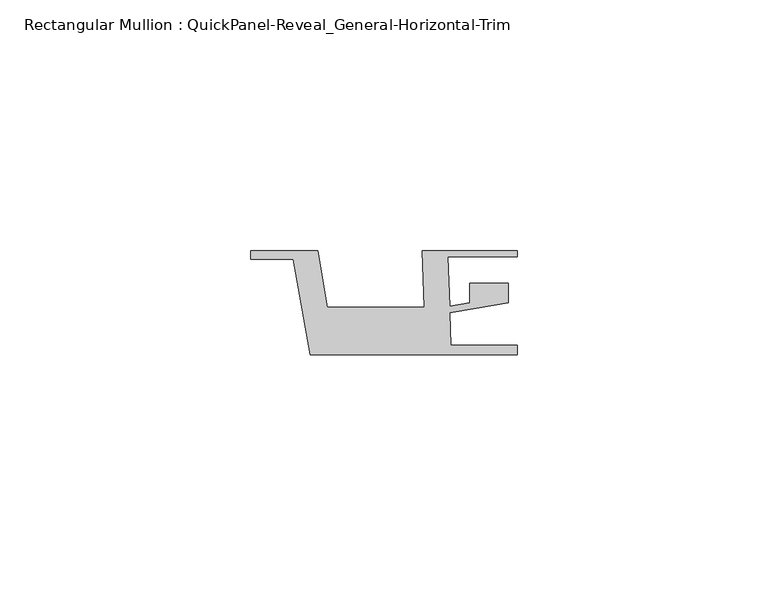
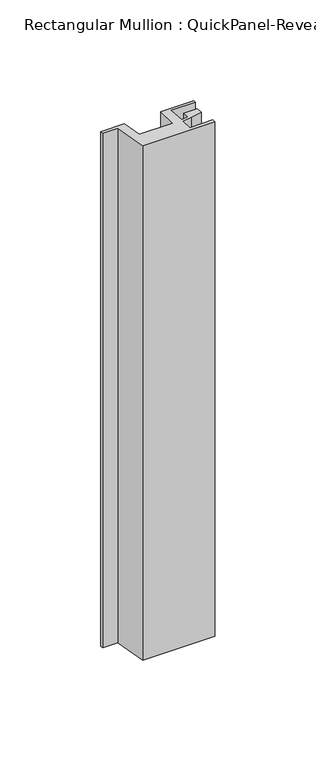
"""IFC4 building model written with IfcOpenShell, lengths in millimetres: member geometry, Rectangular Mullion : QuickPanel-Reveal_General-Horizontal-Trim."""

from ifc_helpers import new_model, si_unit, frame, origin, place, context, project, spatial, polyline, outline, extrude, source, transform, mapped, element, save


def rectangular_mullion_quickpanel_reveal_general_horizontal_b5cb45a2(model_context):
    return source(origin(), model_context, "Body", "SweptSolid", [
        extrude(outline(polyline([(28.3897075, -8.6293878), (-12.9047811, -8.6293878), (-16.27755, 10.4985348), (-24.8029806, 10.4985348), (-24.8029806, 12.1803727), (-11.4233548, 12.1803727), (-9.490275, 0.9043028), (9.8003757, 0.9043028), (9.4066067, 12.1803727), (28.3897075, 12.1803727), (28.3897075, 10.9303752), (14.533354, 10.9303752), (14.8772811, 1.0815922), (18.86285, 1.7648465), (18.86285, 5.6493034), (26.6076231, 5.6493034), (26.6076231, 1.8040245), (20.1722905, 0.7008023), (14.9220096, -0.1992641), (15.1487948, -6.6935423), (28.3897075, -6.6935423), (28.3897075, -8.6293878)])), frame((0.0, 0.0, -311.0914708), z_axis=(0.0, 0.0, 1.0), x_axis=(1.0, 0.0, 0.0)), (0.0, 0.0, 1.0), 311.0914708),
    ])


if __name__ == "__main__":
    model = new_model("IFC4")
    model_context = context("Model", 3, world=origin())
    ifc_project = project(units=[si_unit("LENGTHUNIT", "METRE", prefix="MILLI")], contexts=[model_context])
    site = spatial("IfcSite", under=ifc_project)
    building = spatial("IfcBuilding", under=site)
    placement = place(None, origin())
    rectangular_mullion_quickpanel_reveal_general_horizontal_shape = rectangular_mullion_quickpanel_reveal_general_horizontal_b5cb45a2(model_context)
    element("IfcMember", 1, ObjectType="Rectangular Mullion : QuickPanel-Reveal_General-Horizontal-Trim", at=placement, inside=building, context=model_context, shape_type="MappedRepresentation", body=[
        mapped(rectangular_mullion_quickpanel_reveal_general_horizontal_shape, transform((0.0, 0.0, 0.0), x_axis=(1.0, 0.0, 0.0), y_axis=(0.0, 1.0, 0.0), z_axis=(0.0, 0.0, 1.0))),
    ])
    save(model, "model.ifc")
